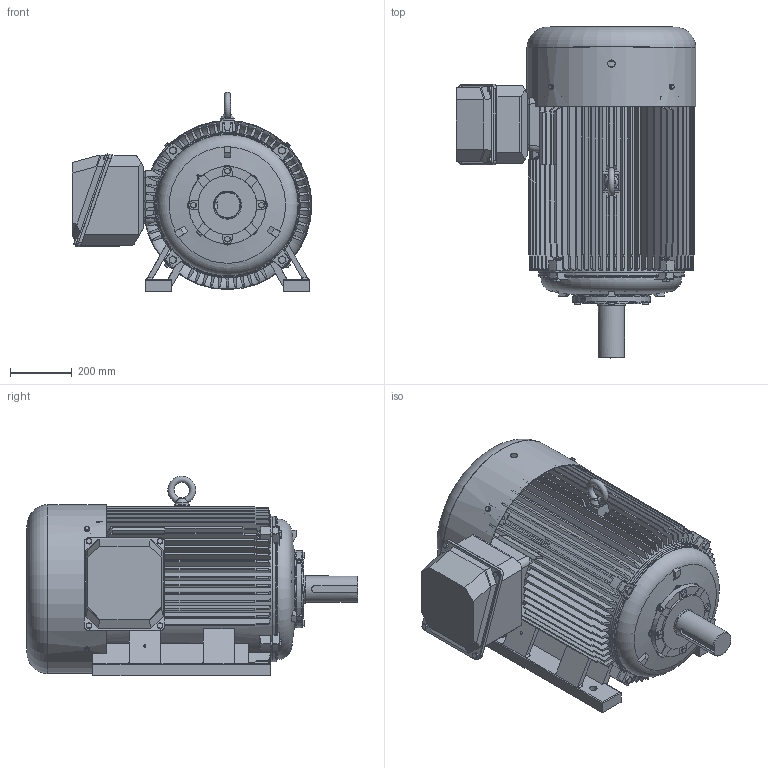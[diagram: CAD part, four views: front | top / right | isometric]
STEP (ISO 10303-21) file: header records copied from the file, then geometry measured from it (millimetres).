
FILE_DESCRIPTION(/* description */ ('Unknown'),/* implementation_level */ '2;1');
FILE_NAME(/* name */ '1-SMA36116_외형도(445DIA)',/* time_stamp */ '2026-07-24T08:25:14+09:00',/* author */ ('Unknown'),/* organization */ ('Unknown'),/* preprocessor_version */ 'ST-DEVELOPER v16',/* originating_system */ 'DEX',/* authorisation */ $);
FILE_SCHEMA (('AUTOMOTIVE_DESIGN {1 0 10303 214 3 1 1}'));
Products named in the file (23): 1-SMA36116_寇屈档(445DI; 2-SMA-34308_FRAME(445DIA); 3-1-SMA-37936_擅粽塭鰍(445D; 4-1-SMA-36535-2_µÚºê¶óÄÏ(445D€; 3-2_SMA-34379_菊海绢傅目滚(郴)(4磁凉湮劶(; 3-3_SMA-34378_菊海绢傅目滚(寇)(4磁凉湮劶(; ﾀｰｰ｢ｺｼﾆｮ M10x1.5xL; 幫陝獐お M14x2.0x; 蹴辨 S6ean_Korea.949; 5-SMA-37935_SHAFT(445DIA); 6316ZZ; 6318ZZ; 腊阿敲罚瘤 M8x1.25e; 4-2_SMA-34445_µÚº£¾î¸µÄ¿¹ö(³»)(30„"; 4-3_SMA-34444_µÚº£¾î¸µÄ¿¹ö(¿Ü)(3p}Æ; 6-SMA-34339-1_FAN(445DIA); 7-SMA-34311_FAN COVER(445DIA); 幫陝獐お M12x1.75x; 8-SMA-37459M_T-BOX(鼻)(400~445DIA); 9-SMA-37458M_T-BOX(ж)(400~445DIA)e; Iｺｼﾆｮ M24x3.0x38主; 幫陝獐お M10x1.5x; 斜葬蝶 棲Ы PF 1F
Assembly tree (42 placements, depth 2):
  1-SMA36116_寇屈档(445DI
    2-SMA-34308_FRAME(445DIA)
    3-1-SMA-37936_擅粽塭鰍(445D
    4-1-SMA-36535-2_µÚºê¶óÄÏ(445D€
    3-2_SMA-34379_菊海绢傅目滚(郴)(4磁凉湮劶(
    3-3_SMA-34378_菊海绢傅目滚(寇)(4磁凉湮劶(
    ﾀｰｰ｢ｺｼﾆｮ M10x1.5xL  x8
    幫陝獐お M14x2.0x  x8
    蹴辨 S6ean_Korea.949
    5-SMA-37935_SHAFT(445DIA)
    6316ZZ
    6318ZZ
    腊阿敲罚瘤 M8x1.25e  x4
    4-2_SMA-34445_µÚº£¾î¸µÄ¿¹ö(³»)(30„"
    4-3_SMA-34444_µÚº£¾î¸µÄ¿¹ö(¿Ü)(3p}Æ
    6-SMA-34339-1_FAN(445DIA)
    7-SMA-34311_FAN COVER(445DIA)
    幫陝獐お M12x1.75x
    8-SMA-37459M_T-BOX(鼻)(400~445DIA)
    9-SMA-37458M_T-BOX(ж)(400~445DIA)e
    Iｺｼﾆｮ M24x3.0x38主
    幫陝獐お M10x1.5x  x4
    斜葬蝶 棲Ы PF 1F
Bounding box: 775 x 1072.99 x 644.96 mm (x, y, z)
Volume: 46811700.2 mm3; surface area: 8602664 mm2
Topology: 64 solids, 64 shells, 5522 faces, 15362 edges, 9986 vertices
Faces by surface type: plane 3773, cylinder 651, cone 518, bspline 303, torus 221, sphere 56
Full cylindrical faces by diameter (mm): 2.5 x2, 6.647 x13, 8 x4, 8.376 x13, 10 x26, 10.106 x2, 11.445 x2, 11.835 x8, 12 x30, 13.157 x2, 14 x16, 16 x8, 17.5 x4, 20.752 x1, 24 x7, 45 x1, 56.656 x1, 65 x1, 79.8 x1, 80 x2, 81 x3, 85 x1, 87 x2, 88 x1, 89 x3, 89.8 x1, 90 x2, 91 x3, 95 x2, 97 x2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
Entity records: 218173 total; most frequent: CARTESIAN_POINT 73717, ORIENTED_EDGE 28232, DIRECTION 24000, EDGE_CURVE 14116, LINE 10240, VECTOR 10240, VERTEX_POINT 9402, FACE_BOUND 7154
